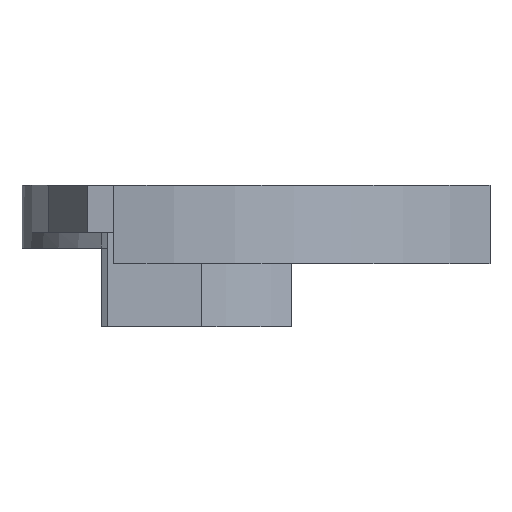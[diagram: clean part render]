
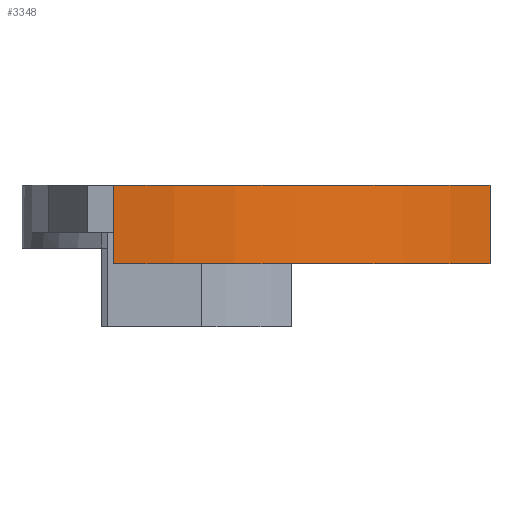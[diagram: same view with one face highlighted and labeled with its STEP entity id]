
A CAD part, front view. The second image highlights one B-rep face of the part: STEP entity #3348.
In plain terms, the highlighted cylindrical face has radius 12 mm (diameter 24 mm), a partial arc.
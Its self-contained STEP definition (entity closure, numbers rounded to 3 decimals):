
#1530 = PLANE('',#1531);
#1531 = AXIS2_PLACEMENT_3D('',#1532,#1533,#1534);
#1532 = CARTESIAN_POINT('',(0.,0.,-3.5));
#1533 = DIRECTION('',(-0.982,0.191,0.));
#1534 = DIRECTION('',(-0.191,-0.982,0.));
#2341 = PLANE('',#2342);
#2342 = AXIS2_PLACEMENT_3D('',#2343,#2344,#2345);
#2343 = CARTESIAN_POINT('',(0.,0.,-1.));
#2344 = DIRECTION('',(0.,0.,1.));
#2345 = DIRECTION('',(-0.191,-0.982,0.));
#2420 = PLANE('',#2421);
#2421 = AXIS2_PLACEMENT_3D('',#2422,#2423,#2424);
#2422 = CARTESIAN_POINT('',(0.,0.,-3.5));
#2423 = DIRECTION('',(0.,0.,1.));
#2424 = DIRECTION('',(-0.191,-0.982,0.));
#2484 = VERTEX_POINT('',#2485);
#2485 = CARTESIAN_POINT('',(-2.29,-11.78,-3.5));
#2506 = EDGE_CURVE('',#2484,#2507,#2509,.T.);
#2507 = VERTEX_POINT('',#2508);
#2508 = CARTESIAN_POINT('',(-2.29,-11.78,-1.));
#2509 = SURFACE_CURVE('',#2510,(#2514,#2521),.PCURVE_S1.);
#2510 = LINE('',#2511,#2512);
#2511 = CARTESIAN_POINT('',(-2.29,-11.78,-3.5));
#2512 = VECTOR('',#2513,1.);
#2513 = DIRECTION('',(0.,0.,1.));
#2514 = PCURVE('',#1530,#2515);
#2515 = DEFINITIONAL_REPRESENTATION('',(#2516),#2520);
#2516 = LINE('',#2517,#2518);
#2517 = CARTESIAN_POINT('',(12.,0.));
#2518 = VECTOR('',#2519,1.);
#2519 = DIRECTION('',(0.,1.));
#2520 = ( GEOMETRIC_REPRESENTATION_CONTEXT(2) 
PARAMETRIC_REPRESENTATION_CONTEXT() REPRESENTATION_CONTEXT('2D SPACE',''
  ) );
#2521 = PCURVE('',#2522,#2527);
#2522 = CYLINDRICAL_SURFACE('',#2523,12.);
#2523 = AXIS2_PLACEMENT_3D('',#2524,#2525,#2526);
#2524 = CARTESIAN_POINT('',(0.,0.,-3.5));
#2525 = DIRECTION('',(0.,0.,1.));
#2526 = DIRECTION('',(-0.191,-0.982,0.));
#2527 = DEFINITIONAL_REPRESENTATION('',(#2528),#2532);
#2528 = LINE('',#2529,#2530);
#2529 = CARTESIAN_POINT('',(0.,-0.));
#2530 = VECTOR('',#2531,1.);
#2531 = DIRECTION('',(0.,1.));
#2532 = ( GEOMETRIC_REPRESENTATION_CONTEXT(2) 
PARAMETRIC_REPRESENTATION_CONTEXT() REPRESENTATION_CONTEXT('2D SPACE',''
  ) );
#3236 = PLANE('',#3237);
#3237 = AXIS2_PLACEMENT_3D('',#3238,#3239,#3240);
#3238 = CARTESIAN_POINT('',(4.,3.,-4.));
#3239 = DIRECTION('',(0.874,0.485,0.));
#3240 = DIRECTION('',(0.,0.,1.));
#3252 = EDGE_CURVE('',#2507,#3253,#3255,.T.);
#3253 = VERTEX_POINT('',#3254);
#3254 = CARTESIAN_POINT('',(9.635,-7.153,-1.));
#3255 = SURFACE_CURVE('',#3256,(#3261,#3268),.PCURVE_S1.);
#3256 = CIRCLE('',#3257,12.);
#3257 = AXIS2_PLACEMENT_3D('',#3258,#3259,#3260);
#3258 = CARTESIAN_POINT('',(0.,0.,-1.));
#3259 = DIRECTION('',(0.,0.,1.));
#3260 = DIRECTION('',(-0.191,-0.982,0.));
#3261 = PCURVE('',#2341,#3262);
#3262 = DEFINITIONAL_REPRESENTATION('',(#3263),#3267);
#3263 = CIRCLE('',#3264,12.);
#3264 = AXIS2_PLACEMENT_2D('',#3265,#3266);
#3265 = CARTESIAN_POINT('',(0.,0.));
#3266 = DIRECTION('',(1.,0.));
#3267 = ( GEOMETRIC_REPRESENTATION_CONTEXT(2) 
PARAMETRIC_REPRESENTATION_CONTEXT() REPRESENTATION_CONTEXT('2D SPACE',''
  ) );
#3268 = PCURVE('',#2522,#3269);
#3269 = DEFINITIONAL_REPRESENTATION('',(#3270),#3274);
#3270 = LINE('',#3271,#3272);
#3271 = CARTESIAN_POINT('',(0.,2.5));
#3272 = VECTOR('',#3273,1.);
#3273 = DIRECTION('',(1.,0.));
#3274 = ( GEOMETRIC_REPRESENTATION_CONTEXT(2) 
PARAMETRIC_REPRESENTATION_CONTEXT() REPRESENTATION_CONTEXT('2D SPACE',''
  ) );
#3303 = EDGE_CURVE('',#2484,#3304,#3306,.T.);
#3304 = VERTEX_POINT('',#3305);
#3305 = CARTESIAN_POINT('',(9.635,-7.153,-3.5));
#3306 = SURFACE_CURVE('',#3307,(#3312,#3319),.PCURVE_S1.);
#3307 = CIRCLE('',#3308,12.);
#3308 = AXIS2_PLACEMENT_3D('',#3309,#3310,#3311);
#3309 = CARTESIAN_POINT('',(0.,0.,-3.5));
#3310 = DIRECTION('',(0.,0.,1.));
#3311 = DIRECTION('',(-0.191,-0.982,0.));
#3312 = PCURVE('',#2420,#3313);
#3313 = DEFINITIONAL_REPRESENTATION('',(#3314),#3318);
#3314 = CIRCLE('',#3315,12.);
#3315 = AXIS2_PLACEMENT_2D('',#3316,#3317);
#3316 = CARTESIAN_POINT('',(0.,0.));
#3317 = DIRECTION('',(1.,0.));
#3318 = ( GEOMETRIC_REPRESENTATION_CONTEXT(2) 
PARAMETRIC_REPRESENTATION_CONTEXT() REPRESENTATION_CONTEXT('2D SPACE',''
  ) );
#3319 = PCURVE('',#2522,#3320);
#3320 = DEFINITIONAL_REPRESENTATION('',(#3321),#3325);
#3321 = LINE('',#3322,#3323);
#3322 = CARTESIAN_POINT('',(0.,0.));
#3323 = VECTOR('',#3324,1.);
#3324 = DIRECTION('',(1.,0.));
#3325 = ( GEOMETRIC_REPRESENTATION_CONTEXT(2) 
PARAMETRIC_REPRESENTATION_CONTEXT() REPRESENTATION_CONTEXT('2D SPACE',''
  ) );
#3348 = ADVANCED_FACE('',(#3349),#2522,.T.);
#3349 = FACE_BOUND('',#3350,.T.);
#3350 = EDGE_LOOP('',(#3351,#3352,#3353,#3354));
#3351 = ORIENTED_EDGE('',*,*,#3252,.F.);
#3352 = ORIENTED_EDGE('',*,*,#2506,.F.);
#3353 = ORIENTED_EDGE('',*,*,#3303,.T.);
#3354 = ORIENTED_EDGE('',*,*,#3355,.T.);
#3355 = EDGE_CURVE('',#3304,#3253,#3356,.T.);
#3356 = SURFACE_CURVE('',#3357,(#3361,#3367),.PCURVE_S1.);
#3357 = LINE('',#3358,#3359);
#3358 = CARTESIAN_POINT('',(9.635,-7.153,-3.5));
#3359 = VECTOR('',#3360,1.);
#3360 = DIRECTION('',(0.,0.,1.));
#3361 = PCURVE('',#2522,#3362);
#3362 = DEFINITIONAL_REPRESENTATION('',(#3363),#3366);
#3363 = B_SPLINE_CURVE_WITH_KNOTS('',1,(#3364,#3365),.UNSPECIFIED.,.F.,
  .F.,(2,2),(0.,2.5),.PIECEWISE_BEZIER_KNOTS.);
#3364 = CARTESIAN_POINT('',(1.124,0.));
#3365 = CARTESIAN_POINT('',(1.124,2.5));
#3366 = ( GEOMETRIC_REPRESENTATION_CONTEXT(2) 
PARAMETRIC_REPRESENTATION_CONTEXT() REPRESENTATION_CONTEXT('2D SPACE',''
  ) );
#3367 = PCURVE('',#3236,#3368);
#3368 = DEFINITIONAL_REPRESENTATION('',(#3369),#3372);
#3369 = B_SPLINE_CURVE_WITH_KNOTS('',1,(#3370,#3371),.UNSPECIFIED.,.F.,
  .F.,(2,2),(0.,2.5),.PIECEWISE_BEZIER_KNOTS.);
#3370 = CARTESIAN_POINT('',(0.5,11.612));
#3371 = CARTESIAN_POINT('',(3.,11.612));
#3372 = ( GEOMETRIC_REPRESENTATION_CONTEXT(2) 
PARAMETRIC_REPRESENTATION_CONTEXT() REPRESENTATION_CONTEXT('2D SPACE',''
  ) );
